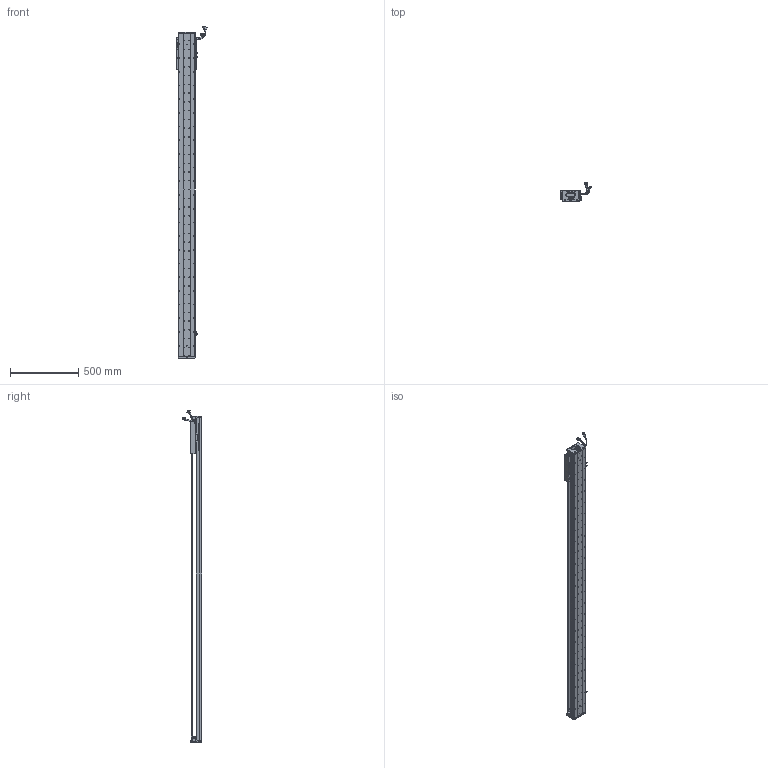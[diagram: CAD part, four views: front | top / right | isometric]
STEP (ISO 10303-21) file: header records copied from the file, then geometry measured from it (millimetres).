
FILE_DESCRIPTION (( 'STEP AP203' ), '1' );
FILE_NAME ('Z3-RY120D-1-L500-B-K.SLDASM_2050.step', '2021-05-17T05:49:10', ( '盈信电脑' ), ( '东莞市道滘镇水果街19号' ), 'SwSTEP 2.0', 'SolidWorks 2016', '' );
FILE_SCHEMA (( 'CONFIG_CONTROL_DESIGN' ));
Length unit declared in the file: millimetre
Products named in the file (37): SCREW-M1.6-2; COVER-Part-1; Z-120詩湍傷裔啣; PBU_SHEET; SCREW-M1.6-3; SCREW-M1.6-1; HARNESS; LABEL; LABEL-Part-1; SCALE-Part-1; 榋妏寠巭燃_暯_M2_2; HARNESS-Part-1; 覜茼ん672; PSLH080_PSLF2; SCREW-M1.6; SEAL-Part-1; Z3-RY120-L500詩湍100mm遵_2050; SCREW-M1.7; 140蚥薯蝶輸; Z-RY120D詩湍奻揤裔; 672嫖萇羲壽假蚾釱; Z3-RY120D-1-L500-B-K.SLDASM_2050; 120-Z-臏賑輸盄裔(21遴); 080黍杅芛假蚾釱21遴; 140雄赽晤鎢ん堤盄; HARNESS-Part-2; Z-RY120D詩湍狟揤裔; SHIELDPLATE; Z3-RY120铝滑块（21款）; SCALE; SCREW-M1.7-1; SCALE-Part-2; SEAL; Z3-RY120-500-倰第菁釱_2050; RY100FB-遵嫖萇覜茼え; HOLDER0; COVER
Assembly tree (43 placements, depth 4):
  Z3-RY120D-1-L500-B-K.SLDASM_2050
    Z3-RY120-500-倰第菁釱_2050
    覜茼ん672  x3
    672嫖萇羲壽假蚾釱  x2
    Z3-RY120铝滑块（21款）
    PSLH080_PSLF2
      SCALE
        SCALE-Part-1
        SCALE-Part-2
      HARNESS
        HARNESS-Part-1
        HARNESS-Part-2
      LABEL
        LABEL-Part-1
      COVER
        COVER-Part-1
      SEAL
        SEAL-Part-1
      榋妏寠巭燃_暯_M2_2
      SHIELDPLATE
      SCREW-M1.7
      SCREW-M1.7-1
      PBU_SHEET
      SCREW-M1.6
      SCREW-M1.6-1
      SCREW-M1.6-2
      SCREW-M1.6-3
      HOLDER0
    080黍杅芛假蚾釱21遴
    120-Z-臏賑輸盄裔(21遴)
    140雄赽晤鎢ん堤盄
    140蚥薯蝶輸  x2
    RY100FB-遵嫖萇覜茼え
    Z-120詩湍傷裔啣  x2
    Z-RY120D詩湍奻揤裔  x2
    Z-RY120D詩湍狟揤裔  x2
    Z3-RY120-L500詩湍100mm遵_2050
Bounding box: 222.88 x 140.94 x 2423.99 mm (x, y, z)
Volume: 5783286.1 mm3; surface area: 2010736.4 mm2
Topology: 38 solids, 38 shells, 3541 faces, 10009 edges, 6312 vertices
Faces by surface type: cylinder 1825, plane 1224, cone 370, torus 69, bspline 53
Entity records: 117006 total; most frequent: CARTESIAN_POINT 35151, ORIENTED_EDGE 16802, DIRECTION 15579, EDGE_CURVE 8401, AXIS2_PLACEMENT_3D 5758, VERTEX_POINT 5432, LINE 4063, VECTOR 4063
